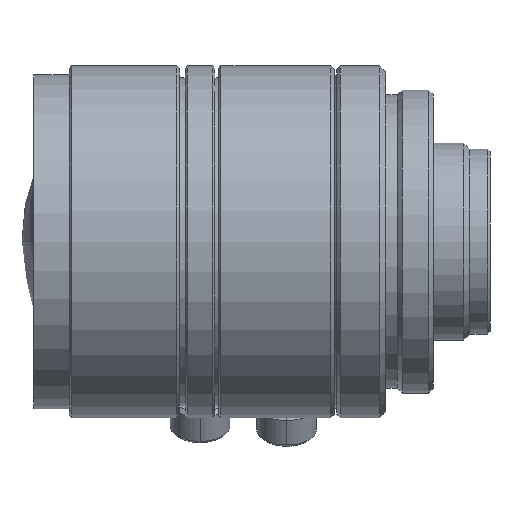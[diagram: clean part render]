
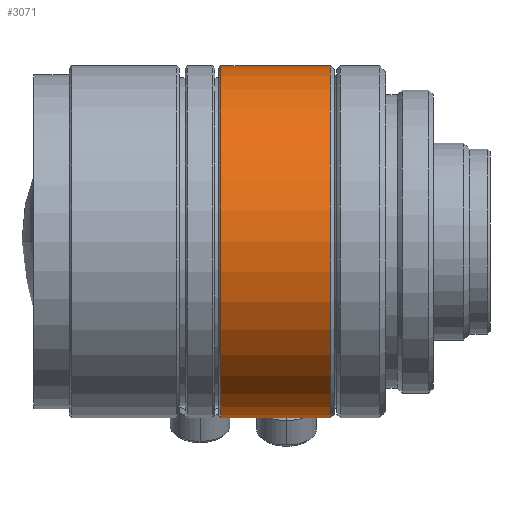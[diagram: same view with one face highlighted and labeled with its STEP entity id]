
A CAD part, front view. The second image highlights one B-rep face of the part: STEP entity #3071.
In plain terms, the highlighted cylindrical face has radius 14.75 mm (diameter 29.5 mm), a partial arc.
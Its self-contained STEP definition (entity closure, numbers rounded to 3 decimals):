
#11 = VERTEX_POINT ( 'NONE', #2642 ) ;
#12 = VERTEX_POINT ( 'NONE', #2640 ) ;
#13 = VERTEX_POINT ( 'NONE', #2648 ) ;
#31 = VERTEX_POINT ( 'NONE', #2666 ) ;
#263 = EDGE_LOOP ( 'NONE', ( #556, #557, #558, #559 ) ) ;
#556 = ORIENTED_EDGE ( 'NONE', *, *, #3196, .F. ) ;
#557 = ORIENTED_EDGE ( 'NONE', *, *, #665, .T. ) ;
#558 = ORIENTED_EDGE ( 'NONE', *, *, #3267, .T. ) ;
#559 = ORIENTED_EDGE ( 'NONE', *, *, #664, .F. ) ;
#664 = EDGE_CURVE ( 'NONE', #11, #31, #963, .T. ) ;
#665 = EDGE_CURVE ( 'NONE', #12, #13, #964, .T. ) ;
#752 = AXIS2_PLACEMENT_3D ( 'NONE', #3014, #3015, #3016 ) ;
#753 = AXIS2_PLACEMENT_3D ( 'NONE', #3017, #3018, #3019 ) ;
#816 = AXIS2_PLACEMENT_3D ( 'NONE', #1308, #1306, #1299 ) ;
#963 = CIRCLE ( 'NONE', #752, 14.75 ) ;
#964 = CIRCLE ( 'NONE', #753, 14.75 ) ;
#1058 = FACE_OUTER_BOUND ( 'NONE', #263, .T. ) ;
#1059 = CYLINDRICAL_SURFACE ( 'NONE', #816, 14.75 ) ;
#1299 = DIRECTION ( 'NONE',  ( 0., 0., -1. ) ) ;
#1306 = DIRECTION ( 'NONE',  ( 1., 0., 0. ) ) ;
#1308 = CARTESIAN_POINT ( 'NONE',  ( 0., 0., 0. ) ) ;
#1937 = LINE ( 'NONE', #2181, #1941 ) ;
#1941 = VECTOR ( 'NONE', #2196, 1000. ) ;
#2049 = LINE ( 'NONE', #2394, #2052 ) ;
#2052 = VECTOR ( 'NONE', #2395, 1000. ) ;
#2181 = CARTESIAN_POINT ( 'NONE',  ( 0., 0., 14.75 ) ) ;
#2196 = DIRECTION ( 'NONE',  ( 1., 0., 0. ) ) ;
#2394 = CARTESIAN_POINT ( 'NONE',  ( 0., 0., -14.75 ) ) ;
#2395 = DIRECTION ( 'NONE',  ( 1., 0., 0. ) ) ;
#2640 = CARTESIAN_POINT ( 'NONE',  ( -31.274, 0., 14.75 ) ) ;
#2642 = CARTESIAN_POINT ( 'NONE',  ( -22.074, 0., 14.75 ) ) ;
#2648 = CARTESIAN_POINT ( 'NONE',  ( -31.274, 0., -14.75 ) ) ;
#2666 = CARTESIAN_POINT ( 'NONE',  ( -22.074, 0., -14.75 ) ) ;
#3014 = CARTESIAN_POINT ( 'NONE',  ( -22.074, 0., 0. ) ) ;
#3015 = DIRECTION ( 'NONE',  ( 1., 0., 0. ) ) ;
#3016 = DIRECTION ( 'NONE',  ( 0., 0., -1. ) ) ;
#3017 = CARTESIAN_POINT ( 'NONE',  ( -31.274, 0., 0. ) ) ;
#3018 = DIRECTION ( 'NONE',  ( 1., 0., 0. ) ) ;
#3019 = DIRECTION ( 'NONE',  ( 0., 0., -1. ) ) ;
#3071 = ADVANCED_FACE ( 'NONE', ( #1058 ), #1059, .T. ) ;
#3196 = EDGE_CURVE ( 'NONE', #12, #11, #1937, .T. ) ;
#3267 = EDGE_CURVE ( 'NONE', #13, #31, #2049, .T. ) ;
